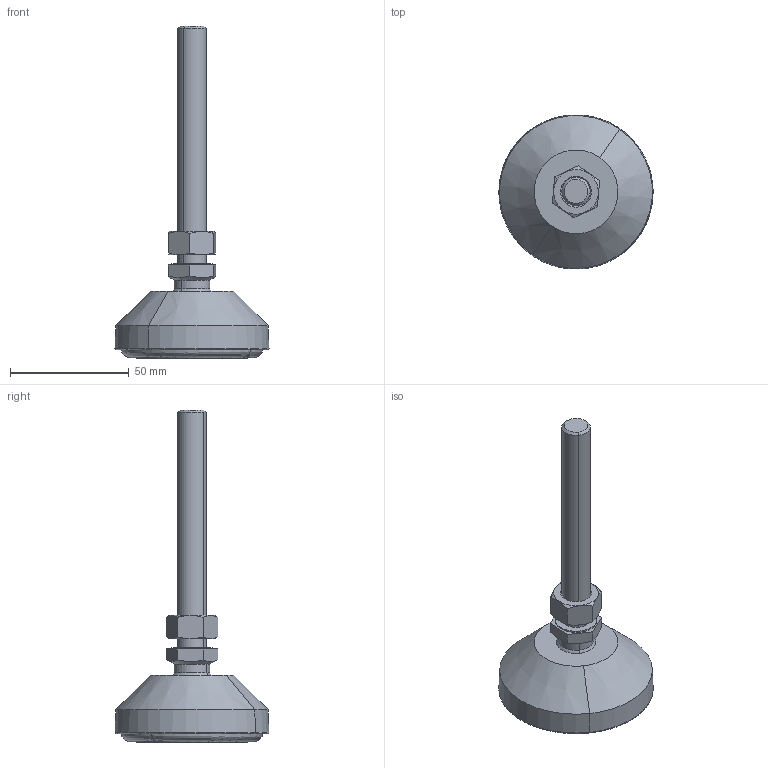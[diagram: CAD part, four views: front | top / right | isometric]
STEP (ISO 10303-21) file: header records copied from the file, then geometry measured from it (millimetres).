
FILE_DESCRIPTION (( 'STEP AP203' ), '1' );
FILE_NAME ('DY-U6512100.STEP', '2022-03-08T03:32:19', ( '' ), ( '' ), 'SwSTEP 2.0', 'SolidWorks 2017', '' );
FILE_SCHEMA (( 'CONFIG_CONTROL_DESIGN' ));
Length unit declared in the file: millimetre
Products named in the file (1): DY-U6512100
Bounding box: 64.86 x 64.8 x 139.77 mm (x, y, z)
Surface area: 18088.8 mm2 (no closed solid volume)
Topology: 0 solids, 5 shells, 87 faces, 205 edges, 133 vertices
Faces by surface type: plane 31, bspline 29, cone 16, cylinder 10, sphere 1
Entity records: 3559 total; most frequent: CARTESIAN_POINT 1816, ORIENTED_EDGE 380, DIRECTION 273, EDGE_CURVE 201, VERTEX_POINT 131, AXIS2_PLACEMENT_3D 106, EDGE_LOOP 103, FACE_OUTER_BOUND 87
